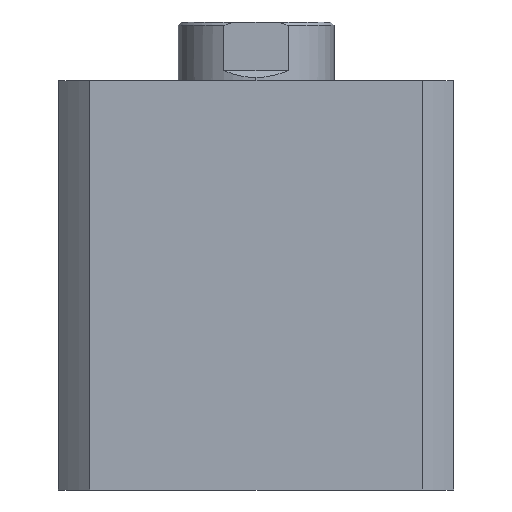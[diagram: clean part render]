
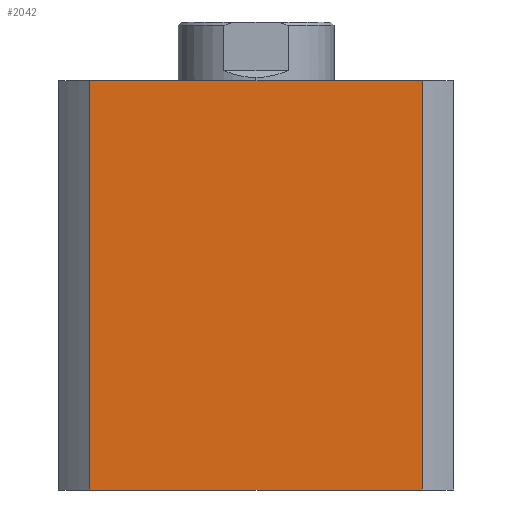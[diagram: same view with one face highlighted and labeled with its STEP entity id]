
A CAD part, left-side view. The second image highlights one B-rep face of the part: STEP entity #2042.
In plain terms, the highlighted planar face has unit normal (-1, 0, 0).
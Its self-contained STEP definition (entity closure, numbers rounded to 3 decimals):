
#558 = DIRECTION ( 'NONE',  ( 0., 0., -1. ) ) ;
#559 = DIRECTION ( 'NONE',  ( 1., 0., 0. ) ) ;
#564 = CARTESIAN_POINT ( 'NONE',  ( -57., 0., 118. ) ) ;
#576 = PLANE ( 'NONE',  #3344 ) ;
#995 = ORIENTED_EDGE ( 'NONE', *, *, #2367, .T. ) ;
#1706 = ORIENTED_EDGE ( 'NONE', *, *, #2370, .F. ) ;
#1707 = ORIENTED_EDGE ( 'NONE', *, *, #2369, .F. ) ;
#1708 = ORIENTED_EDGE ( 'NONE', *, *, #2333, .T. ) ;
#1751 = FACE_OUTER_BOUND ( 'NONE', #2153, .T. ) ;
#2042 = ADVANCED_FACE ( 'NONE', ( #1751 ), #576, .F. ) ;
#2153 = EDGE_LOOP ( 'NONE', ( #1708, #1707, #1706, #995 ) ) ;
#2333 = EDGE_CURVE ( 'NONE', #3697, #3620, #2636, .T. ) ;
#2367 = EDGE_CURVE ( 'NONE', #3684, #3697, #2682, .T. ) ;
#2369 = EDGE_CURVE ( 'NONE', #3663, #3620, #2686, .T. ) ;
#2370 = EDGE_CURVE ( 'NONE', #3684, #3663, #2687, .T. ) ;
#2636 = LINE ( 'NONE', #3080, #2642 ) ;
#2642 = VECTOR ( 'NONE', #3082, 1000. ) ;
#2682 = LINE ( 'NONE', #2900, #2685 ) ;
#2685 = VECTOR ( 'NONE', #2899, 1000. ) ;
#2686 = LINE ( 'NONE', #2909, #2688 ) ;
#2687 = LINE ( 'NONE', #2893, #2690 ) ;
#2688 = VECTOR ( 'NONE', #2908, 1000. ) ;
#2690 = VECTOR ( 'NONE', #2892, 1000. ) ;
#2892 = DIRECTION ( 'NONE',  ( 0., -1., 0. ) ) ;
#2893 = CARTESIAN_POINT ( 'NONE',  ( -57., 0., 118. ) ) ;
#2899 = DIRECTION ( 'NONE',  ( 0., 0., -1. ) ) ;
#2900 = CARTESIAN_POINT ( 'NONE',  ( -57., 47.971, 118. ) ) ;
#2908 = DIRECTION ( 'NONE',  ( 0., 0., -1. ) ) ;
#2909 = CARTESIAN_POINT ( 'NONE',  ( -57., -47.971, 118. ) ) ;
#3080 = CARTESIAN_POINT ( 'NONE',  ( -57., 0., 0. ) ) ;
#3082 = DIRECTION ( 'NONE',  ( 0., -1., 0. ) ) ;
#3344 = AXIS2_PLACEMENT_3D ( 'NONE', #564, #559, #558 ) ;
#3620 = VERTEX_POINT ( 'NONE', #4762 ) ;
#3663 = VERTEX_POINT ( 'NONE', #4579 ) ;
#3684 = VERTEX_POINT ( 'NONE', #4730 ) ;
#3697 = VERTEX_POINT ( 'NONE', #4713 ) ;
#4579 = CARTESIAN_POINT ( 'NONE',  ( -57., -47.971, 118. ) ) ;
#4713 = CARTESIAN_POINT ( 'NONE',  ( -57., 47.971, 0. ) ) ;
#4730 = CARTESIAN_POINT ( 'NONE',  ( -57., 47.971, 118. ) ) ;
#4762 = CARTESIAN_POINT ( 'NONE',  ( -57., -47.971, 0. ) ) ;
